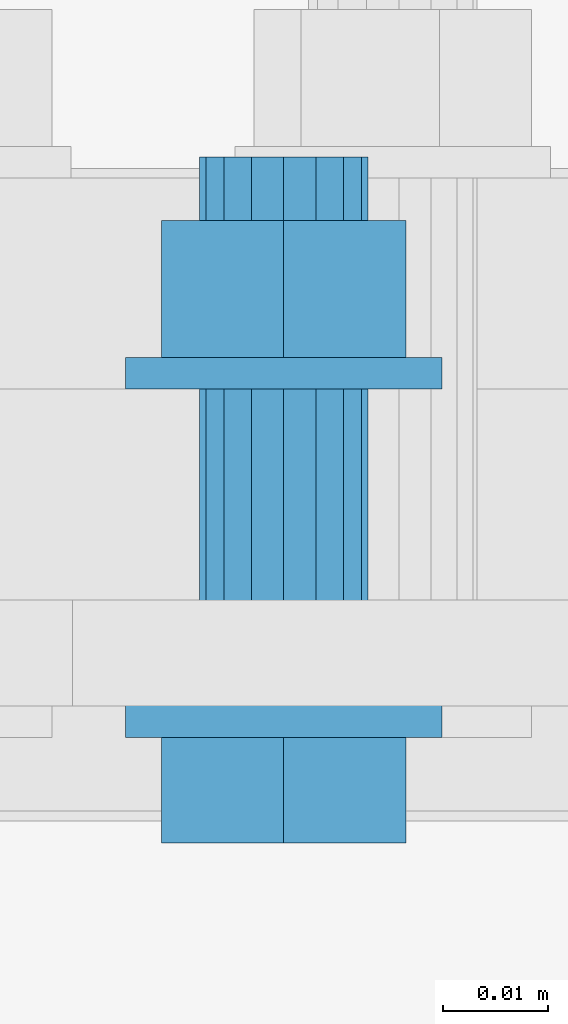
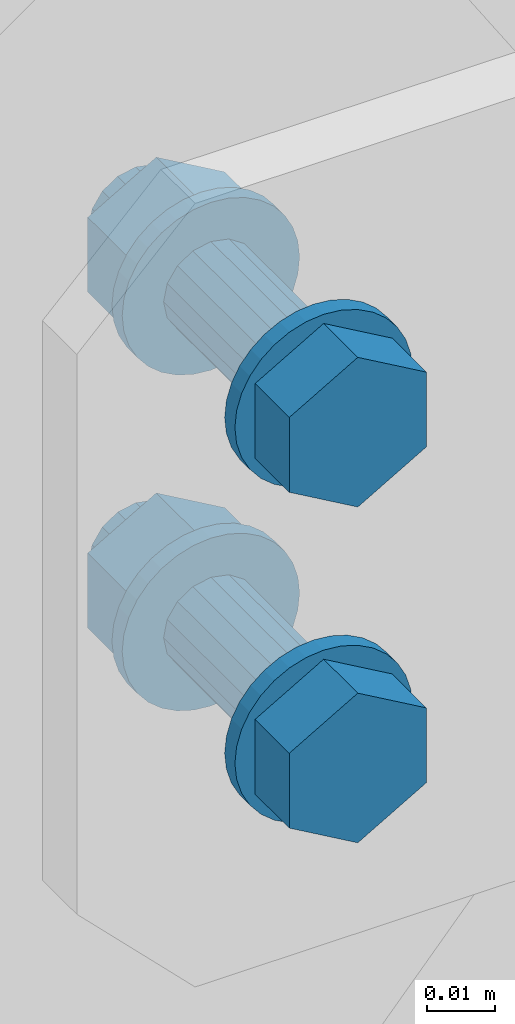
# One storey, part 366 of 821: 1 mechanical fastener.
"""IFC2X3 building model written with IfcOpenShell, lengths in millimetres."""

from ifc_helpers import new_model, entity, si_unit, converted_unit, origin_with_axes, place, context, project, spatial, faceted_brep, element, save


model = new_model("IFC2X3")

# Units and contexts
model_context = context("Model", 3, precision=1e-09, world=origin_with_axes())
ifc_project = project(units=[si_unit("LENGTHUNIT", "METRE", prefix="MILLI"), si_unit("AREAUNIT", "SQUARE_METRE"), si_unit("VOLUMEUNIT", "CUBIC_METRE"), converted_unit("PLANEANGLEUNIT", "DEGREE", entity("IfcPlaneAngleMeasure", 0.01745329), si_unit("PLANEANGLEUNIT", "RADIAN"), dimensions=[0, 0, 0, 0, 0, 0, 0])], contexts=[model_context])

# Site, building, storey
site_placement = place(None, origin_with_axes())
site = spatial("IfcSite", under=ifc_project, at=site_placement, Name="Cnopf'sche Kinderklinik", CompositionType="ELEMENT")
building_placement = place(site_placement, origin_with_axes())
building = spatial("IfcBuilding", under=site, at=building_placement, Name="Struktur 1", CompositionType="ELEMENT")
storey_placement = place(building_placement, origin_with_axes())
storey = spatial("IfcBuildingStorey", under=building, at=storey_placement, Name="Default Storey", CompositionType="ELEMENT", Elevation=0.0)

# Mechanical fastener
mechanical_fastener_placement = place(None, origin_with_axes())
element("IfcMechanicalFastener", 1, at=mechanical_fastener_placement, inside=storey, ObjectType="-", NominalDiameter=16.0, NominalLength=55.0, context=model_context, shape_type="Brep", body=[
    faceted_brep([(5134.963401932, 7496.736971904, 7014.999996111), (5134.963401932, 7493.736971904, 7014.999996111), (5134.675181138, 7493.736971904, 7012.073641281), (5134.675181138, 7496.736971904, 7012.073641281), (5133.82159492, 7493.736971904, 7009.259744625), (5133.82159492, 7496.736971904, 7009.259744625), (5132.435446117, 7493.736971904, 7006.666442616), (5132.435446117, 7496.736971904, 7006.666442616), (5130.57000365, 7493.736971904, 7004.393394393), (5130.57000365, 7496.736971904, 7004.393394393), (5128.296955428, 7493.736971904, 7002.527951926), (5128.296955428, 7496.736971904, 7002.527951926), (5125.703653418, 7493.736971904, 7001.141803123), (5125.703653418, 7496.736971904, 7001.141803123), (5122.889756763, 7493.736971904, 7000.288216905), (5122.889756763, 7496.736971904, 7000.288216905), (5119.963401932, 7493.736971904, 6999.999996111), (5119.963401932, 7496.736971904, 6999.999996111), (5117.037047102, 7493.736971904, 7000.288216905), (5117.037047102, 7496.736971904, 7000.288216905), (5114.223150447, 7493.736971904, 7001.141803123), (5114.223150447, 7496.736971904, 7001.141803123), (5111.629848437, 7493.736971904, 7002.527951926), (5111.629848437, 7496.736971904, 7002.527951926), (5109.356800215, 7493.736971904, 7004.393394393), (5109.356800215, 7496.736971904, 7004.393394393), (5107.491357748, 7493.736971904, 7006.666442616), (5107.491357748, 7496.736971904, 7006.666442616), (5106.105208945, 7493.736971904, 7009.259744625), (5106.105208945, 7496.736971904, 7009.259744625), (5105.251622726, 7493.736971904, 7012.073641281), (5105.251622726, 7496.736971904, 7012.073641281), (5104.963401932, 7493.736971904, 7014.999996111), (5104.963401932, 7496.736971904, 7014.999996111), (5105.251622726, 7493.736971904, 7017.926350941), (5105.251622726, 7496.736971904, 7017.926350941), (5106.105208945, 7493.736971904, 7020.740247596), (5106.105208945, 7496.736971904, 7020.740247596), (5107.491357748, 7493.736971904, 7023.333549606), (5107.491357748, 7496.736971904, 7023.333549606), (5109.356800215, 7493.736971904, 7025.606597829), (5109.356800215, 7496.736971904, 7025.606597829), (5111.629848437, 7493.736971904, 7027.472040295), (5111.629848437, 7496.736971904, 7027.472040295), (5114.223150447, 7493.736971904, 7028.858189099), (5114.223150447, 7496.736971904, 7028.858189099), (5117.037047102, 7493.736971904, 7029.711775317), (5117.037047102, 7496.736971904, 7029.711775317), (5119.963401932, 7493.736971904, 7029.999996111), (5119.963401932, 7496.736971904, 7029.999996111), (5122.889756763, 7493.736971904, 7029.711775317), (5122.889756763, 7496.736971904, 7029.711775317), (5125.703653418, 7493.736971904, 7028.858189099), (5125.703653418, 7496.736971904, 7028.858189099), (5128.296955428, 7493.736971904, 7027.472040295), (5128.296955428, 7496.736971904, 7027.472040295), (5130.57000365, 7493.736971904, 7025.606597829), (5130.57000365, 7496.736971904, 7025.606597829), (5132.435446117, 7493.736971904, 7023.333549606), (5132.435446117, 7496.736971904, 7023.333549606), (5133.82159492, 7493.736971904, 7020.740247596), (5133.82159492, 7496.736971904, 7020.740247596), (5134.675181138, 7493.736971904, 7017.926350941), (5134.675181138, 7496.736971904, 7017.926350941)], [[[0, 1, 2, 3]], [[3, 2, 4, 5]], [[5, 4, 6, 7]], [[7, 6, 8, 9]], [[9, 8, 10, 11]], [[11, 10, 12, 13]], [[13, 12, 14, 15]], [[15, 14, 16, 17]], [[17, 16, 18, 19]], [[19, 18, 20, 21]], [[21, 20, 22, 23]], [[23, 22, 24, 25]], [[25, 24, 26, 27]], [[27, 26, 28, 29]], [[29, 28, 30, 31]], [[31, 30, 32, 33]], [[33, 32, 34, 35]], [[35, 34, 36, 37]], [[37, 36, 38, 39]], [[39, 38, 40, 41]], [[41, 40, 42, 43]], [[43, 42, 44, 45]], [[45, 44, 46, 47]], [[47, 46, 48, 49]], [[49, 48, 50, 51]], [[51, 50, 52, 53]], [[53, 52, 54, 55]], [[55, 54, 56, 57]], [[57, 56, 58, 59]], [[59, 58, 60, 61]], [[61, 60, 62, 63]], [[63, 62, 1, 0]], [[2, 1, 62, 60, 58, 56, 54, 52, 50, 48, 46, 44, 42, 40, 38, 36, 34, 32, 30, 28, 26, 24, 22, 20, 18, 16, 14, 12, 10, 8, 6, 4]], [[63, 0, 3, 5, 7, 9, 11, 13, 15, 17, 19, 21, 23, 25, 27, 29, 31, 33, 35, 37, 39, 41, 43, 45, 47, 49, 51, 53, 55, 57, 59, 61]]]),
    faceted_brep([(5134.963401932, 7496.736971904, 6954.999996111), (5134.963401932, 7493.736971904, 6954.999996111), (5134.675181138, 7493.736971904, 6952.073641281), (5134.675181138, 7496.736971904, 6952.073641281), (5133.82159492, 7493.736971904, 6949.259744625), (5133.82159492, 7496.736971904, 6949.259744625), (5132.435446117, 7493.736971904, 6946.666442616), (5132.435446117, 7496.736971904, 6946.666442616), (5130.57000365, 7493.736971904, 6944.393394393), (5130.57000365, 7496.736971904, 6944.393394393), (5128.296955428, 7493.736971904, 6942.527951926), (5128.296955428, 7496.736971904, 6942.527951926), (5125.703653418, 7493.736971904, 6941.141803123), (5125.703653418, 7496.736971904, 6941.141803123), (5122.889756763, 7493.736971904, 6940.288216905), (5122.889756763, 7496.736971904, 6940.288216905), (5119.963401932, 7493.736971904, 6939.999996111), (5119.963401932, 7496.736971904, 6939.999996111), (5117.037047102, 7493.736971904, 6940.288216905), (5117.037047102, 7496.736971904, 6940.288216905), (5114.223150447, 7493.736971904, 6941.141803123), (5114.223150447, 7496.736971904, 6941.141803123), (5111.629848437, 7493.736971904, 6942.527951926), (5111.629848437, 7496.736971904, 6942.527951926), (5109.356800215, 7493.736971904, 6944.393394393), (5109.356800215, 7496.736971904, 6944.393394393), (5107.491357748, 7493.736971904, 6946.666442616), (5107.491357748, 7496.736971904, 6946.666442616), (5106.105208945, 7493.736971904, 6949.259744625), (5106.105208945, 7496.736971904, 6949.259744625), (5105.251622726, 7493.736971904, 6952.073641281), (5105.251622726, 7496.736971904, 6952.073641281), (5104.963401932, 7493.736971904, 6954.999996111), (5104.963401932, 7496.736971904, 6954.999996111), (5105.251622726, 7493.736971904, 6957.926350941), (5105.251622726, 7496.736971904, 6957.926350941), (5106.105208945, 7493.736971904, 6960.740247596), (5106.105208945, 7496.736971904, 6960.740247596), (5107.491357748, 7493.736971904, 6963.333549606), (5107.491357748, 7496.736971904, 6963.333549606), (5109.356800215, 7493.736971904, 6965.606597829), (5109.356800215, 7496.736971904, 6965.606597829), (5111.629848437, 7493.736971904, 6967.472040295), (5111.629848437, 7496.736971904, 6967.472040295), (5114.223150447, 7493.736971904, 6968.858189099), (5114.223150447, 7496.736971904, 6968.858189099), (5117.037047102, 7493.736971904, 6969.711775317), (5117.037047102, 7496.736971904, 6969.711775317), (5119.963401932, 7493.736971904, 6969.999996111), (5119.963401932, 7496.736971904, 6969.999996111), (5122.889756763, 7493.736971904, 6969.711775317), (5122.889756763, 7496.736971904, 6969.711775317), (5125.703653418, 7493.736971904, 6968.858189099), (5125.703653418, 7496.736971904, 6968.858189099), (5128.296955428, 7493.736971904, 6967.472040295), (5128.296955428, 7496.736971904, 6967.472040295), (5130.57000365, 7493.736971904, 6965.606597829), (5130.57000365, 7496.736971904, 6965.606597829), (5132.435446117, 7493.736971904, 6963.333549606), (5132.435446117, 7496.736971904, 6963.333549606), (5133.82159492, 7493.736971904, 6960.740247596), (5133.82159492, 7496.736971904, 6960.740247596), (5134.675181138, 7493.736971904, 6957.926350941), (5134.675181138, 7496.736971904, 6957.926350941)], [[[0, 1, 2, 3]], [[3, 2, 4, 5]], [[5, 4, 6, 7]], [[7, 6, 8, 9]], [[9, 8, 10, 11]], [[11, 10, 12, 13]], [[13, 12, 14, 15]], [[15, 14, 16, 17]], [[17, 16, 18, 19]], [[19, 18, 20, 21]], [[21, 20, 22, 23]], [[23, 22, 24, 25]], [[25, 24, 26, 27]], [[27, 26, 28, 29]], [[29, 28, 30, 31]], [[31, 30, 32, 33]], [[33, 32, 34, 35]], [[35, 34, 36, 37]], [[37, 36, 38, 39]], [[39, 38, 40, 41]], [[41, 40, 42, 43]], [[43, 42, 44, 45]], [[45, 44, 46, 47]], [[47, 46, 48, 49]], [[49, 48, 50, 51]], [[51, 50, 52, 53]], [[53, 52, 54, 55]], [[55, 54, 56, 57]], [[57, 56, 58, 59]], [[59, 58, 60, 61]], [[61, 60, 62, 63]], [[63, 62, 1, 0]], [[2, 1, 62, 60, 58, 56, 54, 52, 50, 48, 46, 44, 42, 40, 38, 36, 34, 32, 30, 28, 26, 24, 22, 20, 18, 16, 14, 12, 10, 8, 6, 4]], [[63, 0, 3, 5, 7, 9, 11, 13, 15, 17, 19, 21, 23, 25, 27, 29, 31, 33, 35, 37, 39, 41, 43, 45, 47, 49, 51, 53, 55, 57, 59, 61]]]),
    faceted_brep([(5108.380312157, 7483.736971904, 7008.312496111), (5108.380312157, 7493.736971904, 7008.312496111), (5119.963401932, 7493.736971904, 7001.624996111), (5119.963401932, 7483.736971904, 7001.624996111), (5131.546491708, 7493.736971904, 7008.312496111), (5131.546491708, 7483.736971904, 7008.312496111), (5131.546491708, 7493.736971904, 7021.687496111), (5131.546491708, 7483.736971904, 7021.687496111), (5119.963401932, 7493.736971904, 7028.374996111), (5119.963401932, 7483.736971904, 7028.374996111), (5108.380312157, 7493.736971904, 7021.687496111), (5108.380312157, 7483.736971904, 7021.687496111)], [[[0, 1, 2, 3]], [[3, 2, 4, 5]], [[5, 4, 6, 7]], [[7, 6, 8, 9]], [[9, 8, 10, 11]], [[11, 10, 1, 0]], [[3, 5, 7, 9, 11, 0]], [[2, 1, 10, 8, 6, 4]]]),
    faceted_brep([(5108.380312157, 7483.736971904, 6948.312496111), (5108.380312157, 7493.736971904, 6948.312496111), (5119.963401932, 7493.736971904, 6941.624996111), (5119.963401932, 7483.736971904, 6941.624996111), (5131.546491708, 7493.736971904, 6948.312496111), (5131.546491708, 7483.736971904, 6948.312496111), (5131.546491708, 7493.736971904, 6961.687496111), (5131.546491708, 7483.736971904, 6961.687496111), (5119.963401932, 7493.736971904, 6968.374996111), (5119.963401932, 7483.736971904, 6968.374996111), (5108.380312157, 7493.736971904, 6961.687496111), (5108.380312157, 7483.736971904, 6961.687496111)], [[[0, 1, 2, 3]], [[3, 2, 4, 5]], [[5, 4, 6, 7]], [[7, 6, 8, 9]], [[9, 8, 10, 11]], [[11, 10, 1, 0]], [[3, 5, 7, 9, 11, 0]], [[2, 1, 10, 8, 6, 4]]]),
    faceted_brep([(5127.963401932, 7526.736971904, 7014.999996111), (5127.963401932, 7496.736971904, 7014.999996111), (5127.354438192, 7496.736971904, 7011.938528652), (5127.354438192, 7526.736971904, 7011.938528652), (5125.620256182, 7496.736971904, 7009.343141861), (5125.620256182, 7526.736971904, 7009.343141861), (5123.024869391, 7496.736971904, 7007.608959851), (5123.024869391, 7526.736971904, 7007.608959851), (5119.963401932, 7496.736971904, 7006.999996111), (5119.963401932, 7526.736971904, 7006.999996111), (5116.901934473, 7496.736971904, 7007.608959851), (5116.901934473, 7526.736971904, 7007.608959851), (5114.306547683, 7496.736971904, 7009.343141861), (5114.306547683, 7526.736971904, 7009.343141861), (5112.572365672, 7496.736971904, 7011.938528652), (5112.572365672, 7526.736971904, 7011.938528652), (5111.963401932, 7496.736971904, 7014.999996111), (5111.963401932, 7526.736971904, 7014.999996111), (5112.572365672, 7496.736971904, 7018.06146357), (5112.572365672, 7526.736971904, 7018.06146357), (5114.306547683, 7496.736971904, 7020.65685036), (5114.306547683, 7526.736971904, 7020.65685036), (5116.901934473, 7496.736971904, 7022.391032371), (5116.901934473, 7526.736971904, 7022.391032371), (5119.963401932, 7496.736971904, 7022.999996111), (5119.963401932, 7526.736971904, 7022.999996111), (5123.024869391, 7496.736971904, 7022.391032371), (5123.024869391, 7526.736971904, 7022.391032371), (5125.620256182, 7496.736971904, 7020.65685036), (5125.620256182, 7526.736971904, 7020.65685036), (5127.354438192, 7496.736971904, 7018.06146357), (5127.354438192, 7526.736971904, 7018.06146357)], [[[0, 1, 2, 3]], [[3, 2, 4, 5]], [[5, 4, 6, 7]], [[7, 6, 8, 9]], [[9, 8, 10, 11]], [[11, 10, 12, 13]], [[13, 12, 14, 15]], [[15, 14, 16, 17]], [[17, 16, 18, 19]], [[19, 18, 20, 21]], [[21, 20, 22, 23]], [[23, 22, 24, 25]], [[25, 24, 26, 27]], [[27, 26, 28, 29]], [[29, 28, 30, 31]], [[31, 30, 1, 0]], [[2, 1, 30, 28, 26, 24, 22, 20, 18, 16, 14, 12, 10, 8, 6, 4]], [[31, 0, 3, 5, 7, 9, 11, 13, 15, 17, 19, 21, 23, 25, 27, 29]]]),
    faceted_brep([(5127.963401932, 7526.736971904, 6954.999996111), (5127.963401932, 7496.736971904, 6954.999996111), (5127.354438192, 7496.736971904, 6951.938528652), (5127.354438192, 7526.736971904, 6951.938528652), (5125.620256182, 7496.736971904, 6949.343141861), (5125.620256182, 7526.736971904, 6949.343141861), (5123.024869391, 7496.736971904, 6947.608959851), (5123.024869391, 7526.736971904, 6947.608959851), (5119.963401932, 7496.736971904, 6946.999996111), (5119.963401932, 7526.736971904, 6946.999996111), (5116.901934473, 7496.736971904, 6947.608959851), (5116.901934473, 7526.736971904, 6947.608959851), (5114.306547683, 7496.736971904, 6949.343141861), (5114.306547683, 7526.736971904, 6949.343141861), (5112.572365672, 7496.736971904, 6951.938528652), (5112.572365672, 7526.736971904, 6951.938528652), (5111.963401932, 7496.736971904, 6954.999996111), (5111.963401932, 7526.736971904, 6954.999996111), (5112.572365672, 7496.736971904, 6958.06146357), (5112.572365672, 7526.736971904, 6958.06146357), (5114.306547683, 7496.736971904, 6960.65685036), (5114.306547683, 7526.736971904, 6960.65685036), (5116.901934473, 7496.736971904, 6962.391032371), (5116.901934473, 7526.736971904, 6962.391032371), (5119.963401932, 7496.736971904, 6962.999996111), (5119.963401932, 7526.736971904, 6962.999996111), (5123.024869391, 7496.736971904, 6962.391032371), (5123.024869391, 7526.736971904, 6962.391032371), (5125.620256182, 7496.736971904, 6960.65685036), (5125.620256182, 7526.736971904, 6960.65685036), (5127.354438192, 7496.736971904, 6958.06146357), (5127.354438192, 7526.736971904, 6958.06146357)], [[[0, 1, 2, 3]], [[3, 2, 4, 5]], [[5, 4, 6, 7]], [[7, 6, 8, 9]], [[9, 8, 10, 11]], [[11, 10, 12, 13]], [[13, 12, 14, 15]], [[15, 14, 16, 17]], [[17, 16, 18, 19]], [[19, 18, 20, 21]], [[21, 20, 22, 23]], [[23, 22, 24, 25]], [[25, 24, 26, 27]], [[27, 26, 28, 29]], [[29, 28, 30, 31]], [[31, 30, 1, 0]], [[2, 1, 30, 28, 26, 24, 22, 20, 18, 16, 14, 12, 10, 8, 6, 4]], [[31, 0, 3, 5, 7, 9, 11, 13, 15, 17, 19, 21, 23, 25, 27, 29]]]),
    faceted_brep([(5134.963401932, 7529.736971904, 7014.999996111), (5134.963401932, 7526.736971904, 7014.999996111), (5134.675181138, 7526.736971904, 7012.073641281), (5134.675181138, 7529.736971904, 7012.073641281), (5133.82159492, 7526.736971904, 7009.259744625), (5133.82159492, 7529.736971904, 7009.259744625), (5132.435446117, 7526.736971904, 7006.666442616), (5132.435446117, 7529.736971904, 7006.666442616), (5130.57000365, 7526.736971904, 7004.393394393), (5130.57000365, 7529.736971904, 7004.393394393), (5128.296955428, 7526.736971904, 7002.527951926), (5128.296955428, 7529.736971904, 7002.527951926), (5125.703653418, 7526.736971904, 7001.141803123), (5125.703653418, 7529.736971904, 7001.141803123), (5122.889756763, 7526.736971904, 7000.288216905), (5122.889756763, 7529.736971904, 7000.288216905), (5119.963401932, 7526.736971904, 6999.999996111), (5119.963401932, 7529.736971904, 6999.999996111), (5117.037047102, 7526.736971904, 7000.288216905), (5117.037047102, 7529.736971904, 7000.288216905), (5114.223150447, 7526.736971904, 7001.141803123), (5114.223150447, 7529.736971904, 7001.141803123), (5111.629848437, 7526.736971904, 7002.527951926), (5111.629848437, 7529.736971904, 7002.527951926), (5109.356800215, 7526.736971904, 7004.393394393), (5109.356800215, 7529.736971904, 7004.393394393), (5107.491357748, 7526.736971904, 7006.666442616), (5107.491357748, 7529.736971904, 7006.666442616), (5106.105208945, 7526.736971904, 7009.259744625), (5106.105208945, 7529.736971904, 7009.259744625), (5105.251622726, 7526.736971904, 7012.073641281), (5105.251622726, 7529.736971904, 7012.073641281), (5104.963401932, 7526.736971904, 7014.999996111), (5104.963401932, 7529.736971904, 7014.999996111), (5105.251622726, 7526.736971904, 7017.926350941), (5105.251622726, 7529.736971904, 7017.926350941), (5106.105208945, 7526.736971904, 7020.740247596), (5106.105208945, 7529.736971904, 7020.740247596), (5107.491357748, 7526.736971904, 7023.333549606), (5107.491357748, 7529.736971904, 7023.333549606), (5109.356800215, 7526.736971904, 7025.606597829), (5109.356800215, 7529.736971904, 7025.606597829), (5111.629848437, 7526.736971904, 7027.472040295), (5111.629848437, 7529.736971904, 7027.472040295), (5114.223150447, 7526.736971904, 7028.858189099), (5114.223150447, 7529.736971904, 7028.858189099), (5117.037047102, 7526.736971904, 7029.711775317), (5117.037047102, 7529.736971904, 7029.711775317), (5119.963401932, 7526.736971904, 7029.999996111), (5119.963401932, 7529.736971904, 7029.999996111), (5122.889756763, 7526.736971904, 7029.711775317), (5122.889756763, 7529.736971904, 7029.711775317), (5125.703653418, 7526.736971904, 7028.858189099), (5125.703653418, 7529.736971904, 7028.858189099), (5128.296955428, 7526.736971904, 7027.472040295), (5128.296955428, 7529.736971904, 7027.472040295), (5130.57000365, 7526.736971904, 7025.606597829), (5130.57000365, 7529.736971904, 7025.606597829), (5132.435446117, 7526.736971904, 7023.333549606), (5132.435446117, 7529.736971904, 7023.333549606), (5133.82159492, 7526.736971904, 7020.740247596), (5133.82159492, 7529.736971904, 7020.740247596), (5134.675181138, 7526.736971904, 7017.926350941), (5134.675181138, 7529.736971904, 7017.926350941)], [[[0, 1, 2, 3]], [[3, 2, 4, 5]], [[5, 4, 6, 7]], [[7, 6, 8, 9]], [[9, 8, 10, 11]], [[11, 10, 12, 13]], [[13, 12, 14, 15]], [[15, 14, 16, 17]], [[17, 16, 18, 19]], [[19, 18, 20, 21]], [[21, 20, 22, 23]], [[23, 22, 24, 25]], [[25, 24, 26, 27]], [[27, 26, 28, 29]], [[29, 28, 30, 31]], [[31, 30, 32, 33]], [[33, 32, 34, 35]], [[35, 34, 36, 37]], [[37, 36, 38, 39]], [[39, 38, 40, 41]], [[41, 40, 42, 43]], [[43, 42, 44, 45]], [[45, 44, 46, 47]], [[47, 46, 48, 49]], [[49, 48, 50, 51]], [[51, 50, 52, 53]], [[53, 52, 54, 55]], [[55, 54, 56, 57]], [[57, 56, 58, 59]], [[59, 58, 60, 61]], [[61, 60, 62, 63]], [[63, 62, 1, 0]], [[2, 1, 62, 60, 58, 56, 54, 52, 50, 48, 46, 44, 42, 40, 38, 36, 34, 32, 30, 28, 26, 24, 22, 20, 18, 16, 14, 12, 10, 8, 6, 4]], [[63, 0, 3, 5, 7, 9, 11, 13, 15, 17, 19, 21, 23, 25, 27, 29, 31, 33, 35, 37, 39, 41, 43, 45, 47, 49, 51, 53, 55, 57, 59, 61]]]),
    faceted_brep([(5134.963401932, 7529.736971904, 6954.999996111), (5134.963401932, 7526.736971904, 6954.999996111), (5134.675181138, 7526.736971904, 6952.073641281), (5134.675181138, 7529.736971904, 6952.073641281), (5133.82159492, 7526.736971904, 6949.259744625), (5133.82159492, 7529.736971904, 6949.259744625), (5132.435446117, 7526.736971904, 6946.666442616), (5132.435446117, 7529.736971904, 6946.666442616), (5130.57000365, 7526.736971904, 6944.393394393), (5130.57000365, 7529.736971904, 6944.393394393), (5128.296955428, 7526.736971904, 6942.527951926), (5128.296955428, 7529.736971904, 6942.527951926), (5125.703653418, 7526.736971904, 6941.141803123), (5125.703653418, 7529.736971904, 6941.141803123), (5122.889756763, 7526.736971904, 6940.288216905), (5122.889756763, 7529.736971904, 6940.288216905), (5119.963401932, 7526.736971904, 6939.999996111), (5119.963401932, 7529.736971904, 6939.999996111), (5117.037047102, 7526.736971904, 6940.288216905), (5117.037047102, 7529.736971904, 6940.288216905), (5114.223150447, 7526.736971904, 6941.141803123), (5114.223150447, 7529.736971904, 6941.141803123), (5111.629848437, 7526.736971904, 6942.527951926), (5111.629848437, 7529.736971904, 6942.527951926), (5109.356800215, 7526.736971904, 6944.393394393), (5109.356800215, 7529.736971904, 6944.393394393), (5107.491357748, 7526.736971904, 6946.666442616), (5107.491357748, 7529.736971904, 6946.666442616), (5106.105208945, 7526.736971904, 6949.259744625), (5106.105208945, 7529.736971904, 6949.259744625), (5105.251622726, 7526.736971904, 6952.073641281), (5105.251622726, 7529.736971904, 6952.073641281), (5104.963401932, 7526.736971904, 6954.999996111), (5104.963401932, 7529.736971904, 6954.999996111), (5105.251622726, 7526.736971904, 6957.926350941), (5105.251622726, 7529.736971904, 6957.926350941), (5106.105208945, 7526.736971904, 6960.740247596), (5106.105208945, 7529.736971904, 6960.740247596), (5107.491357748, 7526.736971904, 6963.333549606), (5107.491357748, 7529.736971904, 6963.333549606), (5109.356800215, 7526.736971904, 6965.606597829), (5109.356800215, 7529.736971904, 6965.606597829), (5111.629848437, 7526.736971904, 6967.472040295), (5111.629848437, 7529.736971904, 6967.472040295), (5114.223150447, 7526.736971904, 6968.858189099), (5114.223150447, 7529.736971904, 6968.858189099), (5117.037047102, 7526.736971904, 6969.711775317), (5117.037047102, 7529.736971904, 6969.711775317), (5119.963401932, 7526.736971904, 6969.999996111), (5119.963401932, 7529.736971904, 6969.999996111), (5122.889756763, 7526.736971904, 6969.711775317), (5122.889756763, 7529.736971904, 6969.711775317), (5125.703653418, 7526.736971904, 6968.858189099), (5125.703653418, 7529.736971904, 6968.858189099), (5128.296955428, 7526.736971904, 6967.472040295), (5128.296955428, 7529.736971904, 6967.472040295), (5130.57000365, 7526.736971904, 6965.606597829), (5130.57000365, 7529.736971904, 6965.606597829), (5132.435446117, 7526.736971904, 6963.333549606), (5132.435446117, 7529.736971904, 6963.333549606), (5133.82159492, 7526.736971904, 6960.740247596), (5133.82159492, 7529.736971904, 6960.740247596), (5134.675181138, 7526.736971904, 6957.926350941), (5134.675181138, 7529.736971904, 6957.926350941)], [[[0, 1, 2, 3]], [[3, 2, 4, 5]], [[5, 4, 6, 7]], [[7, 6, 8, 9]], [[9, 8, 10, 11]], [[11, 10, 12, 13]], [[13, 12, 14, 15]], [[15, 14, 16, 17]], [[17, 16, 18, 19]], [[19, 18, 20, 21]], [[21, 20, 22, 23]], [[23, 22, 24, 25]], [[25, 24, 26, 27]], [[27, 26, 28, 29]], [[29, 28, 30, 31]], [[31, 30, 32, 33]], [[33, 32, 34, 35]], [[35, 34, 36, 37]], [[37, 36, 38, 39]], [[39, 38, 40, 41]], [[41, 40, 42, 43]], [[43, 42, 44, 45]], [[45, 44, 46, 47]], [[47, 46, 48, 49]], [[49, 48, 50, 51]], [[51, 50, 52, 53]], [[53, 52, 54, 55]], [[55, 54, 56, 57]], [[57, 56, 58, 59]], [[59, 58, 60, 61]], [[61, 60, 62, 63]], [[63, 62, 1, 0]], [[2, 1, 62, 60, 58, 56, 54, 52, 50, 48, 46, 44, 42, 40, 38, 36, 34, 32, 30, 28, 26, 24, 22, 20, 18, 16, 14, 12, 10, 8, 6, 4]], [[63, 0, 3, 5, 7, 9, 11, 13, 15, 17, 19, 21, 23, 25, 27, 29, 31, 33, 35, 37, 39, 41, 43, 45, 47, 49, 51, 53, 55, 57, 59, 61]]]),
    faceted_brep([(5108.380312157, 7529.736971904, 7008.312496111), (5108.380312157, 7542.736971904, 7008.312496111), (5119.963401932, 7542.736971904, 7001.624996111), (5119.963401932, 7529.736971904, 7001.624996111), (5131.546491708, 7542.736971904, 7008.312496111), (5131.546491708, 7529.736971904, 7008.312496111), (5131.546491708, 7542.736971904, 7021.687496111), (5131.546491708, 7529.736971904, 7021.687496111), (5119.963401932, 7542.736971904, 7028.374996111), (5119.963401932, 7529.736971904, 7028.374996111), (5108.380312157, 7542.736971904, 7021.687496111), (5108.380312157, 7529.736971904, 7021.687496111)], [[[0, 1, 2, 3]], [[3, 2, 4, 5]], [[5, 4, 6, 7]], [[7, 6, 8, 9]], [[9, 8, 10, 11]], [[11, 10, 1, 0]], [[3, 5, 7, 9, 11, 0]], [[2, 1, 10, 8, 6, 4]]]),
    faceted_brep([(5108.380312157, 7529.736971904, 6948.312496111), (5108.380312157, 7542.736971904, 6948.312496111), (5119.963401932, 7542.736971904, 6941.624996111), (5119.963401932, 7529.736971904, 6941.624996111), (5131.546491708, 7542.736971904, 6948.312496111), (5131.546491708, 7529.736971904, 6948.312496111), (5131.546491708, 7542.736971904, 6961.687496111), (5131.546491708, 7529.736971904, 6961.687496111), (5119.963401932, 7542.736971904, 6968.374996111), (5119.963401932, 7529.736971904, 6968.374996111), (5108.380312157, 7542.736971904, 6961.687496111), (5108.380312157, 7529.736971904, 6961.687496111)], [[[0, 1, 2, 3]], [[3, 2, 4, 5]], [[5, 4, 6, 7]], [[7, 6, 8, 9]], [[9, 8, 10, 11]], [[11, 10, 1, 0]], [[3, 5, 7, 9, 11, 0]], [[2, 1, 10, 8, 6, 4]]]),
    faceted_brep([(5127.963401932, 7548.736971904, 7014.999996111), (5127.963401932, 7542.736971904, 7014.999996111), (5127.354438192, 7542.736971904, 7011.938528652), (5127.354438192, 7548.736971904, 7011.938528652), (5125.620256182, 7542.736971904, 7009.343141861), (5125.620256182, 7548.736971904, 7009.343141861), (5123.024869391, 7542.736971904, 7007.608959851), (5123.024869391, 7548.736971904, 7007.608959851), (5119.963401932, 7542.736971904, 7006.999996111), (5119.963401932, 7548.736971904, 7006.999996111), (5116.901934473, 7542.736971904, 7007.608959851), (5116.901934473, 7548.736971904, 7007.608959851), (5114.306547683, 7542.736971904, 7009.343141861), (5114.306547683, 7548.736971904, 7009.343141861), (5112.572365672, 7542.736971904, 7011.938528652), (5112.572365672, 7548.736971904, 7011.938528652), (5111.963401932, 7542.736971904, 7014.999996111), (5111.963401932, 7548.736971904, 7014.999996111), (5112.572365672, 7542.736971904, 7018.06146357), (5112.572365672, 7548.736971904, 7018.06146357), (5114.306547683, 7542.736971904, 7020.65685036), (5114.306547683, 7548.736971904, 7020.65685036), (5116.901934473, 7542.736971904, 7022.391032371), (5116.901934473, 7548.736971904, 7022.391032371), (5119.963401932, 7542.736971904, 7022.999996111), (5119.963401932, 7548.736971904, 7022.999996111), (5123.024869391, 7542.736971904, 7022.391032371), (5123.024869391, 7548.736971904, 7022.391032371), (5125.620256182, 7542.736971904, 7020.65685036), (5125.620256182, 7548.736971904, 7020.65685036), (5127.354438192, 7542.736971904, 7018.06146357), (5127.354438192, 7548.736971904, 7018.06146357)], [[[0, 1, 2, 3]], [[3, 2, 4, 5]], [[5, 4, 6, 7]], [[7, 6, 8, 9]], [[9, 8, 10, 11]], [[11, 10, 12, 13]], [[13, 12, 14, 15]], [[15, 14, 16, 17]], [[17, 16, 18, 19]], [[19, 18, 20, 21]], [[21, 20, 22, 23]], [[23, 22, 24, 25]], [[25, 24, 26, 27]], [[27, 26, 28, 29]], [[29, 28, 30, 31]], [[31, 30, 1, 0]], [[2, 1, 30, 28, 26, 24, 22, 20, 18, 16, 14, 12, 10, 8, 6, 4]], [[31, 0, 3, 5, 7, 9, 11, 13, 15, 17, 19, 21, 23, 25, 27, 29]]]),
    faceted_brep([(5127.963401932, 7548.736971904, 6954.999996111), (5127.963401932, 7542.736971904, 6954.999996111), (5127.354438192, 7542.736971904, 6951.938528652), (5127.354438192, 7548.736971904, 6951.938528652), (5125.620256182, 7542.736971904, 6949.343141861), (5125.620256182, 7548.736971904, 6949.343141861), (5123.024869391, 7542.736971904, 6947.608959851), (5123.024869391, 7548.736971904, 6947.608959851), (5119.963401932, 7542.736971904, 6946.999996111), (5119.963401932, 7548.736971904, 6946.999996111), (5116.901934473, 7542.736971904, 6947.608959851), (5116.901934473, 7548.736971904, 6947.608959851), (5114.306547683, 7542.736971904, 6949.343141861), (5114.306547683, 7548.736971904, 6949.343141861), (5112.572365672, 7542.736971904, 6951.938528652), (5112.572365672, 7548.736971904, 6951.938528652), (5111.963401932, 7542.736971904, 6954.999996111), (5111.963401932, 7548.736971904, 6954.999996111), (5112.572365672, 7542.736971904, 6958.06146357), (5112.572365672, 7548.736971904, 6958.06146357), (5114.306547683, 7542.736971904, 6960.65685036), (5114.306547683, 7548.736971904, 6960.65685036), (5116.901934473, 7542.736971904, 6962.391032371), (5116.901934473, 7548.736971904, 6962.391032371), (5119.963401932, 7542.736971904, 6962.999996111), (5119.963401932, 7548.736971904, 6962.999996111), (5123.024869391, 7542.736971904, 6962.391032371), (5123.024869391, 7548.736971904, 6962.391032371), (5125.620256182, 7542.736971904, 6960.65685036), (5125.620256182, 7548.736971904, 6960.65685036), (5127.354438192, 7542.736971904, 6958.06146357), (5127.354438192, 7548.736971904, 6958.06146357)], [[[0, 1, 2, 3]], [[3, 2, 4, 5]], [[5, 4, 6, 7]], [[7, 6, 8, 9]], [[9, 8, 10, 11]], [[11, 10, 12, 13]], [[13, 12, 14, 15]], [[15, 14, 16, 17]], [[17, 16, 18, 19]], [[19, 18, 20, 21]], [[21, 20, 22, 23]], [[23, 22, 24, 25]], [[25, 24, 26, 27]], [[27, 26, 28, 29]], [[29, 28, 30, 31]], [[31, 30, 1, 0]], [[2, 1, 30, 28, 26, 24, 22, 20, 18, 16, 14, 12, 10, 8, 6, 4]], [[31, 0, 3, 5, 7, 9, 11, 13, 15, 17, 19, 21, 23, 25, 27, 29]]]),
])

save(model, "model.ifc")
